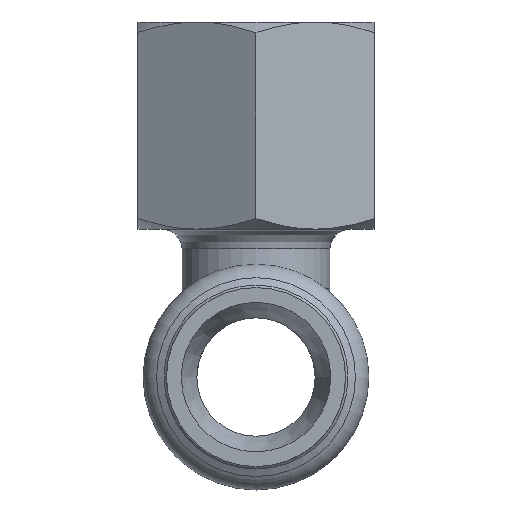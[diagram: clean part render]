
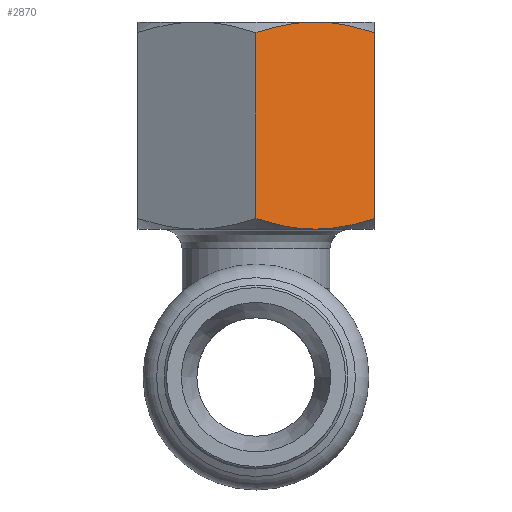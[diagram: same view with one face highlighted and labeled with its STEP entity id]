
A CAD part, left-side view. The second image highlights one B-rep face of the part: STEP entity #2870.
In plain terms, the highlighted planar face has unit normal (-0.866, -0.5, 0) as drawn and (-0.866, 0.5, 0) by its records, which use the part's own axes.
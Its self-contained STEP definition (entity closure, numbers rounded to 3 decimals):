
#1962=CARTESIAN_POINT('',(-6.928,12.,1.072));
#1963=VERTEX_POINT('',#1962);
#1964=CARTESIAN_POINT('',(-10.392,6.,0.));
#1965=VERTEX_POINT('',#1964);
#1966=CARTESIAN_POINT('',(-6.928,12.,1.072));
#1967=CARTESIAN_POINT('',(-8.785,8.785,0.));
#1968=CARTESIAN_POINT('',(-10.392,6.,0.));
#1976=(BOUNDED_CURVE()B_SPLINE_CURVE(2,(#1966,#1967,#1968),.UNSPECIFIED.,.F.,.U.)B_SPLINE_CURVE_WITH_KNOTS((3,3),(0.953,1.81),.UNSPECIFIED.)CURVE()GEOMETRIC_REPRESENTATION_ITEM()RATIONAL_B_SPLINE_CURVE((1.086,1.082,1.0))REPRESENTATION_ITEM(''));
#1977=EDGE_CURVE('',#1963,#1965,#1976,.T.);
#2009=CARTESIAN_POINT('',(-13.856,0.,1.072));
#2010=VERTEX_POINT('',#2009);
#2026=CARTESIAN_POINT('',(-10.392,6.,0.));
#2027=CARTESIAN_POINT('',(-12.,3.215,0.));
#2028=CARTESIAN_POINT('',(-13.856,0.,1.072));
#2036=(BOUNDED_CURVE()B_SPLINE_CURVE(2,(#2026,#2027,#2028),.UNSPECIFIED.,.F.,.U.)B_SPLINE_CURVE_WITH_KNOTS((3,3),(1.81,2.667),.UNSPECIFIED.)CURVE()GEOMETRIC_REPRESENTATION_ITEM()RATIONAL_B_SPLINE_CURVE((1.0,1.082,1.086))REPRESENTATION_ITEM(''));
#2037=EDGE_CURVE('',#1965,#2010,#2036,.T.);
#2414=CARTESIAN_POINT('',(-13.856,0.,19.928));
#2415=VERTEX_POINT('',#2414);
#2429=CARTESIAN_POINT('',(-10.392,6.,21.0));
#2430=VERTEX_POINT('',#2429);
#2438=CARTESIAN_POINT('',(-13.856,0.,19.928));
#2439=CARTESIAN_POINT('',(-12.,3.215,21.));
#2440=CARTESIAN_POINT('',(-10.392,6.,21.0));
#2448=(BOUNDED_CURVE()B_SPLINE_CURVE(2,(#2438,#2439,#2440),.UNSPECIFIED.,.F.,.U.)B_SPLINE_CURVE_WITH_KNOTS((3,3),(0.953,1.81),.UNSPECIFIED.)CURVE()GEOMETRIC_REPRESENTATION_ITEM()RATIONAL_B_SPLINE_CURVE((1.086,1.082,1.0))REPRESENTATION_ITEM(''));
#2449=EDGE_CURVE('',#2415,#2430,#2448,.T.);
#2459=CARTESIAN_POINT('',(-6.928,12.,19.928));
#2460=VERTEX_POINT('',#2459);
#2461=CARTESIAN_POINT('',(-10.392,6.,21.0));
#2462=CARTESIAN_POINT('',(-8.785,8.785,21.));
#2463=CARTESIAN_POINT('',(-6.928,12.,19.928));
#2471=(BOUNDED_CURVE()B_SPLINE_CURVE(2,(#2461,#2462,#2463),.UNSPECIFIED.,.F.,.U.)B_SPLINE_CURVE_WITH_KNOTS((3,3),(1.81,2.667),.UNSPECIFIED.)CURVE()GEOMETRIC_REPRESENTATION_ITEM()RATIONAL_B_SPLINE_CURVE((1.0,1.082,1.086))REPRESENTATION_ITEM(''));
#2472=EDGE_CURVE('',#2430,#2460,#2471,.T.);
#2547=CARTESIAN_POINT('',(-6.928,12.,1.072));
#2548=DIRECTION('',(0.0,0.0,1.0));
#2549=VECTOR('',#2548,18.856);
#2550=LINE('',#2547,#2549);
#2551=EDGE_CURVE('',#1963,#2460,#2550,.T.);
#2847=CARTESIAN_POINT('',(-13.856,0.,1.072));
#2848=DIRECTION('',(0.0,0.0,1.0));
#2849=VECTOR('',#2848,18.856);
#2850=LINE('',#2847,#2849);
#2851=EDGE_CURVE('',#2010,#2415,#2850,.T.);
#2857=CARTESIAN_POINT('',(-13.856,0.,0.0));
#2858=DIRECTION('',(-0.866,0.5,0.0));
#2859=DIRECTION('',(0.0,0.0,1.0));
#2860=AXIS2_PLACEMENT_3D('',#2857,#2858,#2859);
#2861=PLANE('',#2860);
#2862=ORIENTED_EDGE('',*,*,#2037,.T.);
#2863=ORIENTED_EDGE('',*,*,#2851,.T.);
#2864=ORIENTED_EDGE('',*,*,#2449,.T.);
#2865=ORIENTED_EDGE('',*,*,#2472,.T.);
#2866=ORIENTED_EDGE('',*,*,#2551,.F.);
#2867=ORIENTED_EDGE('',*,*,#1977,.T.);
#2868=EDGE_LOOP('',(#2862,#2863,#2864,#2865,#2866,#2867));
#2869=FACE_OUTER_BOUND('',#2868,.T.);
#2870=ADVANCED_FACE('',(#2869),#2861,.T.);
